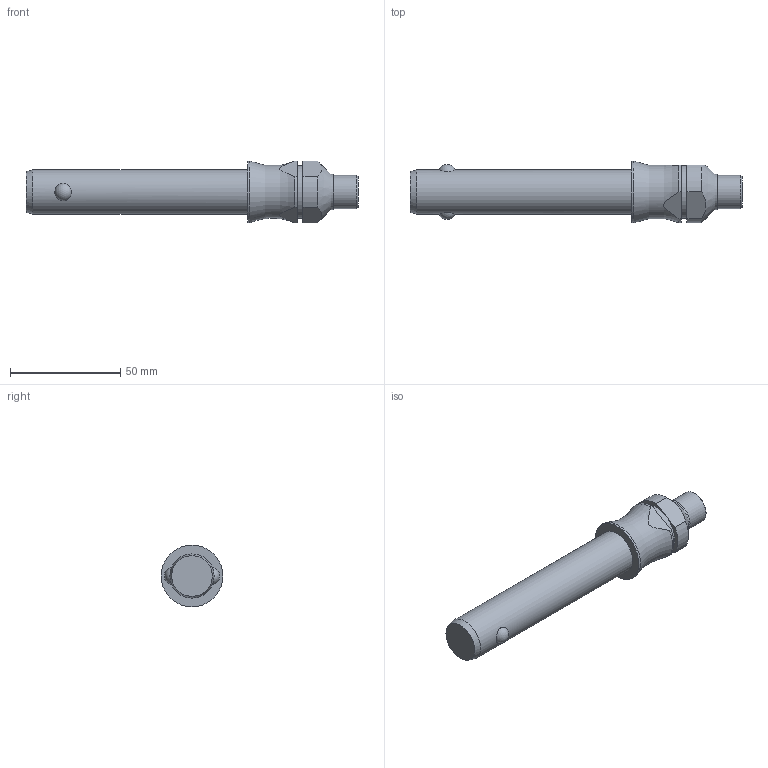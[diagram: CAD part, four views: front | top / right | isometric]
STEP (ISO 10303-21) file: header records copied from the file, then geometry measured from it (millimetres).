
FILE_DESCRIPTION( ( 'STEP AP203' ), '1' );
FILE_NAME( 'C:/Temp/Ganter_Step_05_03_2020/data/3_1/gn113_3/Stainless Steel-Ball lock pin GN 113.3-20-80 (deactivated).stp', '2020-03-12T08:19:03', ( 'License CC BY-ND 4.0' ), ( 'CADENAS' ), ' ', 'PARTsolutions', ' ' );
FILE_SCHEMA( ( 'CONFIG_CONTROL_DESIGN' ) );
Length unit declared in the file: millimetre
Products named in the file (1): _Stainless Steel-Ball lock pin GN 113.3-20-80 (deactivated)
Bounding box: 150.6 x 28 x 28 mm (x, y, z)
Volume: 52374 mm3; surface area: 11078.7 mm2
Topology: 1 solids, 1 shells, 29 faces, 62 edges, 40 vertices
Faces by surface type: plane 11, cylinder 11, cone 4, sphere 2, torus 1
Full cylindrical faces by diameter (mm): 15 x1, 16 x1, 20 x1, 24 x1, 28 x1
Entity records: 1010 total; most frequent: CARTESIAN_POINT 380, DIRECTION 126, ORIENTED_EDGE 100, AXIS2_PLACEMENT_3D 54, EDGE_CURVE 50, EDGE_LOOP 44, VERTEX_POINT 38, FACE_OUTER_BOUND 35
